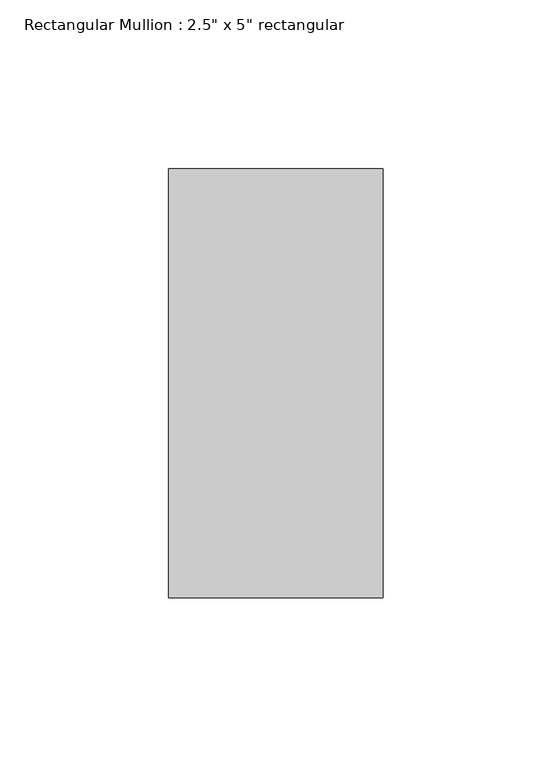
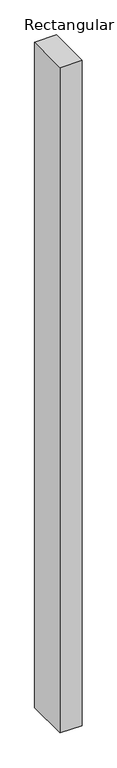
"""IFC4 building model written with IfcOpenShell, lengths in millimetres: member geometry."""

from ifc_helpers import new_model, si_unit, frame, origin, place, context, project, spatial, polyline, outline, extrude, source, transform, mapped, element, save


def member_26bdc30a(model_context):
    return source(origin(), model_context, "Body", "SweptSolid", [
        extrude(outline(polyline([(0.0, 0.0), (-0.6290939, -63.5), (-2038.0178692, -63.5), (-2039.0590481, 0.0), (0.0, 0.0)])), frame((0.0, -63.5, 0.0), z_axis=(0.0, 1.0, 0.0), x_axis=(0.0, 0.0, 1.0)), (0.0, 0.0, 1.0), 127.0),
    ])


if __name__ == "__main__":
    model = new_model("IFC4")
    model_context = context("Model", 3, world=origin())
    ifc_project = project(units=[si_unit("LENGTHUNIT", "METRE", prefix="MILLI")], contexts=[model_context])
    site = spatial("IfcSite", under=ifc_project)
    building = spatial("IfcBuilding", under=site)
    placement = place(None, origin())
    member_shape = member_26bdc30a(model_context)
    element("IfcMember", 1, ObjectType="Rectangular Mullion : 2.5\" x 5\" rectangular", at=placement, inside=building, context=model_context, shape_type="MappedRepresentation", body=[
        mapped(member_shape, transform((0.0, 0.0, 0.0), x_axis=(1.0, 0.0, 0.0), y_axis=(0.0, 1.0, 0.0), z_axis=(0.0, 0.0, 1.0))),
    ])
    save(model, "model.ifc")
